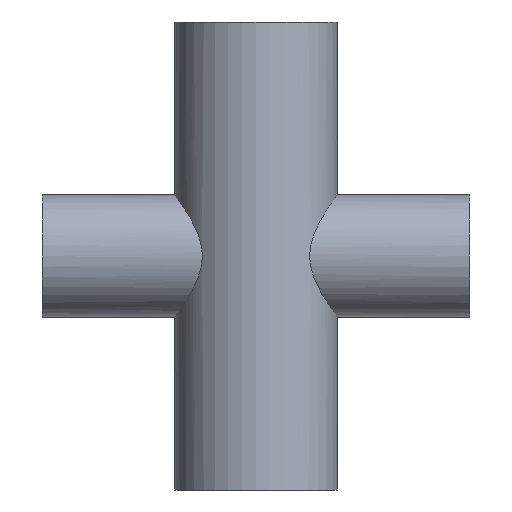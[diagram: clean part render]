
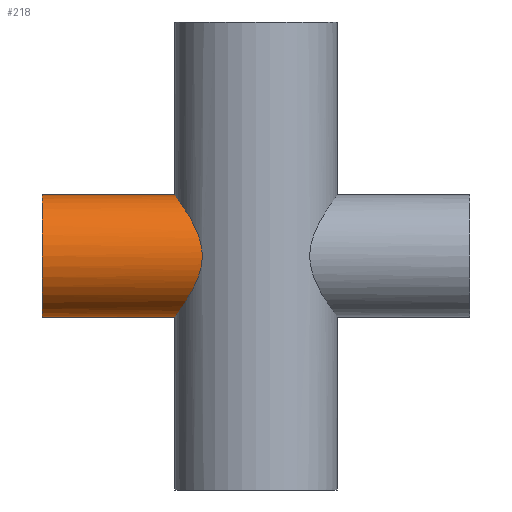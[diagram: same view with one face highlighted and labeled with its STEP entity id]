
A CAD part, front view. The second image highlights one B-rep face of the part: STEP entity #218.
In plain terms, the highlighted cylindrical face has radius 19.05 mm (diameter 38.1 mm), a partial arc.
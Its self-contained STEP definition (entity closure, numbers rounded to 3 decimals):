
#2 = DIRECTION ( 'NONE',  ( 1., 0., 0. ) ) ;
#27 = DIRECTION ( 'NONE',  ( 1., 0., 0. ) ) ;
#35 = CARTESIAN_POINT ( 'NONE',  ( -24.594, -6.377, -17.962 ) ) ;
#46 = CARTESIAN_POINT ( 'NONE',  ( -24.807, -5.465, -18.252 ) ) ;
#50 = CARTESIAN_POINT ( 'NONE',  ( -24.873, -5.158, -18.341 ) ) ;
#55 = CARTESIAN_POINT ( 'NONE',  ( -24.601, -6.354, 17.971 ) ) ;
#61 = CARTESIAN_POINT ( 'NONE',  ( -18.834, -17.055, -8.575 ) ) ;
#64 = CARTESIAN_POINT ( 'NONE',  ( -20.137, -15.487, -11.11 ) ) ;
#81 = VERTEX_POINT ( 'NONE', #551 ) ;
#87 = B_SPLINE_CURVE_WITH_KNOTS ( 'NONE', 3,
 ( #486, #277, #804, #287, #858, #292, #189, #55, #571, #949, #940, #945, #929, #935, #849, #798, #350, #348, #344, #408, #405, #356, #421, #418, #412, #339, #471, #424, #652, #654, #559, #563, #142, #138, #202, #122, #127, #61, #120, #64, #719, #273, #206, #193, #642, #713, #466, #631, #566, #477, #35, #46, #50, #726, #133, #199, #488, #492 ),
 .UNSPECIFIED., .F., .F.,
 ( 4, 2, 2, 2, 2, 2, 2, 2, 2, 2, 2, 2, 2, 2, 2, 2, 2, 2, 2, 2, 2, 2, 2, 2, 2, 2, 2, 2, 4 ),
 ( 0., 0.004, 0.005, 0.006, 0.008, 0.01, 0.012, 0.016, 0.018, 0.019, 0.023, 0.025, 0.027, 0.029, 0.031, 0.033, 0.035, 0.037, 0.039, 0.043, 0.045, 0.047, 0.051, 0.053, 0.055, 0.057, 0.057, 0.058, 0.062 ),
 .UNSPECIFIED. ) ;
#99 = AXIS2_PLACEMENT_3D ( 'NONE', #223, #220, #217 ) ;
#120 = CARTESIAN_POINT ( 'NONE',  ( -19.345, -16.482, -9.626 ) ) ;
#122 = CARTESIAN_POINT ( 'NONE',  ( -17.93, -17.993, -6.29 ) ) ;
#127 = CARTESIAN_POINT ( 'NONE',  ( -18.146, -17.776, -6.877 ) ) ;
#133 = CARTESIAN_POINT ( 'NONE',  ( -25.05, -4.216, -18.581 ) ) ;
#138 = CARTESIAN_POINT ( 'NONE',  ( -17.377, -18.526, -4.481 ) ) ;
#142 = CARTESIAN_POINT ( 'NONE',  ( -17.097, -18.786, -3.227 ) ) ;
#158 = EDGE_CURVE ( 'NONE', #628, #81, #887, .T. ) ;
#165 = VECTOR ( 'NONE', #2, 1000. ) ;
#189 = CARTESIAN_POINT ( 'NONE',  ( -24.814, -5.435, 18.261 ) ) ;
#193 = CARTESIAN_POINT ( 'NONE',  ( -22.011, -12.714, -14.236 ) ) ;
#199 = CARTESIAN_POINT ( 'NONE',  ( -25.297, -2.621, -18.914 ) ) ;
#202 = CARTESIAN_POINT ( 'NONE',  ( -17.546, -18.367, -5.093 ) ) ;
#206 = CARTESIAN_POINT ( 'NONE',  ( -21.217, -13.973, -12.962 ) ) ;
#216 = CIRCLE ( 'NONE', #99, 19.05 ) ;
#217 = DIRECTION ( 'NONE',  ( 0., 0., -1. ) ) ;
#218 = ADVANCED_FACE ( 'NONE', ( #512 ), #555, .T. ) ;
#220 = DIRECTION ( 'NONE',  ( 1., 0., 0. ) ) ;
#223 = CARTESIAN_POINT ( 'NONE',  ( -66.675, 0., 0. ) ) ;
#273 = CARTESIAN_POINT ( 'NONE',  ( -20.947, -14.374, -12.516 ) ) ;
#277 = CARTESIAN_POINT ( 'NONE',  ( -25.4, -1.321, 19.05 ) ) ;
#287 = CARTESIAN_POINT ( 'NONE',  ( -25.055, -4.187, 18.587 ) ) ;
#292 = CARTESIAN_POINT ( 'NONE',  ( -24.88, -5.124, 18.351 ) ) ;
#299 = CARTESIAN_POINT ( 'NONE',  ( -66.675, 0., 19.05 ) ) ;
#329 = ORIENTED_EDGE ( 'NONE', *, *, #158, .T. ) ;
#339 = CARTESIAN_POINT ( 'NONE',  ( -17.103, -18.78, 3.262 ) ) ;
#343 = CARTESIAN_POINT ( 'NONE',  ( -66.675, 0., -19.05 ) ) ;
#344 = CARTESIAN_POINT ( 'NONE',  ( -20.144, -15.477, 11.123 ) ) ;
#348 = CARTESIAN_POINT ( 'NONE',  ( -20.413, -15.122, 11.6 ) ) ;
#350 = CARTESIAN_POINT ( 'NONE',  ( -20.953, -14.365, 12.526 ) ) ;
#356 = CARTESIAN_POINT ( 'NONE',  ( -18.156, -17.766, 6.902 ) ) ;
#380 = EDGE_CURVE ( 'NONE', #431, #628, #216, .T. ) ;
#405 = CARTESIAN_POINT ( 'NONE',  ( -18.843, -17.045, 8.594 ) ) ;
#408 = CARTESIAN_POINT ( 'NONE',  ( -19.353, -16.472, 9.642 ) ) ;
#412 = CARTESIAN_POINT ( 'NONE',  ( -17.385, -18.519, 4.51 ) ) ;
#418 = CARTESIAN_POINT ( 'NONE',  ( -17.554, -18.36, 5.12 ) ) ;
#421 = CARTESIAN_POINT ( 'NONE',  ( -17.939, -17.984, 6.315 ) ) ;
#424 = CARTESIAN_POINT ( 'NONE',  ( -16.84, -19.016, 1.316 ) ) ;
#431 = VERTEX_POINT ( 'NONE', #299 ) ;
#434 = ORIENTED_EDGE ( 'NONE', *, *, #380, .T. ) ;
#451 = AXIS2_PLACEMENT_3D ( 'NONE', #629, #606, #639 ) ;
#460 = CARTESIAN_POINT ( 'NONE',  ( -25.4, 0., 19.05 ) ) ;
#466 = CARTESIAN_POINT ( 'NONE',  ( -23.453, -9.771, -16.365 ) ) ;
#471 = CARTESIAN_POINT ( 'NONE',  ( -16.992, -18.88, 2.623 ) ) ;
#473 = EDGE_CURVE ( 'NONE', #716, #81, #87, .T. ) ;
#477 = CARTESIAN_POINT ( 'NONE',  ( -24.433, -6.968, -17.741 ) ) ;
#486 = CARTESIAN_POINT ( 'NONE',  ( -25.4, 0., 19.05 ) ) ;
#488 = CARTESIAN_POINT ( 'NONE',  ( -25.4, -1.322, -19.05 ) ) ;
#492 = CARTESIAN_POINT ( 'NONE',  ( -25.4, 0., -19.05 ) ) ;
#500 = LINE ( 'NONE', #875, #165 ) ;
#512 = FACE_OUTER_BOUND ( 'NONE', #777, .T. ) ;
#513 = CARTESIAN_POINT ( 'NONE',  ( -66.675, 0., -19.05 ) ) ;
#551 = CARTESIAN_POINT ( 'NONE',  ( -25.4, 0., -19.05 ) ) ;
#555 = CYLINDRICAL_SURFACE ( 'NONE', #451, 19.05 ) ;
#559 = CARTESIAN_POINT ( 'NONE',  ( -16.837, -19.018, -1.284 ) ) ;
#563 = CARTESIAN_POINT ( 'NONE',  ( -16.985, -18.886, -2.579 ) ) ;
#566 = CARTESIAN_POINT ( 'NONE',  ( -24.075, -8.119, -17.245 ) ) ;
#571 = CARTESIAN_POINT ( 'NONE',  ( -24.439, -6.947, 17.749 ) ) ;
#580 = VECTOR ( 'NONE', #27, 1000. ) ;
#601 = ORIENTED_EDGE ( 'NONE', *, *, #473, .F. ) ;
#604 = EDGE_CURVE ( 'NONE', #431, #716, #500, .T. ) ;
#606 = DIRECTION ( 'NONE',  ( 1., 0., 0. ) ) ;
#628 = VERTEX_POINT ( 'NONE', #513 ) ;
#629 = CARTESIAN_POINT ( 'NONE',  ( -66.675, 0., 0. ) ) ;
#631 = CARTESIAN_POINT ( 'NONE',  ( -23.878, -8.68, -16.969 ) ) ;
#639 = DIRECTION ( 'NONE',  ( 0., 0., -1. ) ) ;
#642 = CARTESIAN_POINT ( 'NONE',  ( -22.52, -11.799, -15.006 ) ) ;
#652 = CARTESIAN_POINT ( 'NONE',  ( -16.801, -19.049, 0.665 ) ) ;
#654 = CARTESIAN_POINT ( 'NONE',  ( -16.8, -19.05, -0.635 ) ) ;
#713 = CARTESIAN_POINT ( 'NONE',  ( -23.227, -10.295, -16.04 ) ) ;
#716 = VERTEX_POINT ( 'NONE', #460 ) ;
#719 = CARTESIAN_POINT ( 'NONE',  ( -20.406, -15.132, -11.588 ) ) ;
#726 = CARTESIAN_POINT ( 'NONE',  ( -24.994, -4.533, -18.506 ) ) ;
#777 = EDGE_LOOP ( 'NONE', ( #841, #434, #329, #601 ) ) ;
#798 = CARTESIAN_POINT ( 'NONE',  ( -21.224, -13.963, 12.973 ) ) ;
#804 = CARTESIAN_POINT ( 'NONE',  ( -25.298, -2.61, 18.914 ) ) ;
#841 = ORIENTED_EDGE ( 'NONE', *, *, #604, .F. ) ;
#849 = CARTESIAN_POINT ( 'NONE',  ( -22.018, -12.702, 14.247 ) ) ;
#858 = CARTESIAN_POINT ( 'NONE',  ( -25., -4.5, 18.514 ) ) ;
#875 = CARTESIAN_POINT ( 'NONE',  ( -66.675, 0., 19.05 ) ) ;
#887 = LINE ( 'NONE', #343, #580 ) ;
#929 = CARTESIAN_POINT ( 'NONE',  ( -23.238, -10.269, 16.057 ) ) ;
#935 = CARTESIAN_POINT ( 'NONE',  ( -22.529, -11.783, 15.019 ) ) ;
#940 = CARTESIAN_POINT ( 'NONE',  ( -23.886, -8.657, 16.98 ) ) ;
#945 = CARTESIAN_POINT ( 'NONE',  ( -23.465, -9.741, 16.383 ) ) ;
#949 = CARTESIAN_POINT ( 'NONE',  ( -24.082, -8.099, 17.254 ) ) ;
